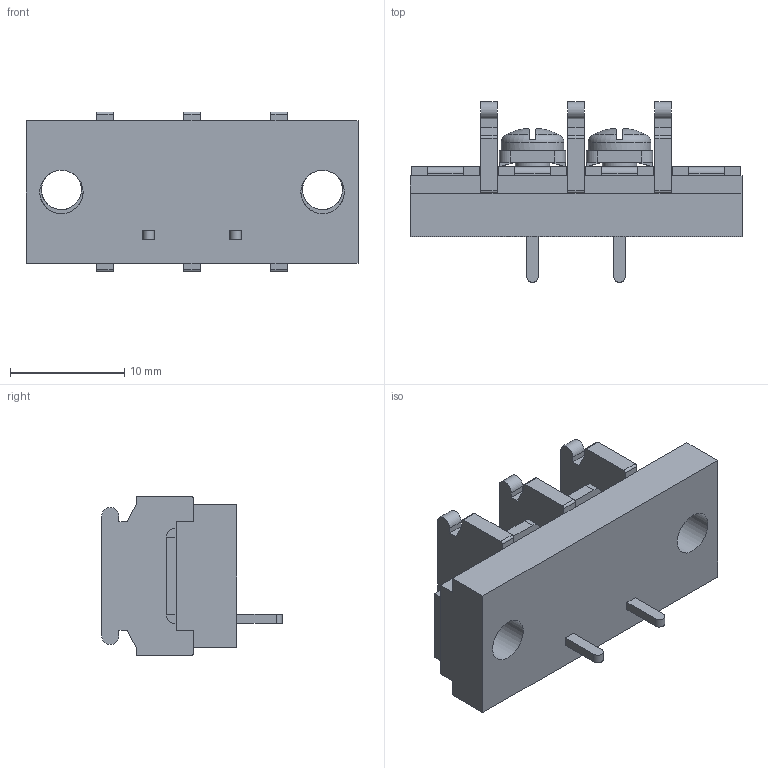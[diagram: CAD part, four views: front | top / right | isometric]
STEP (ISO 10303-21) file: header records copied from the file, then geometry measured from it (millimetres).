
FILE_DESCRIPTION(/* description */ ('Alibre Inc.'),/* implementation_level */ '2;1');
FILE_NAME(/* name */ 'export0',/* time_stamp */ '2015-10-23T19:34:39+09:00',/* author */ (''),/* organization */ (''),/* preprocessor_version */ 'ST-DEVELOPER v14',/* originating_system */ 'Alibre',/* authorisation */ '');
FILE_SCHEMA (('CONFIG_CONTROL_DESIGN'));
Length unit declared in the file: centimetre
Products named in the file (1): ID_1
Bounding box: 29.06 x 15.8 x 14 mm (x, y, z)
Volume: 2346.7 mm3; surface area: 2318.8 mm2
Topology: 1 solids, 17 shells, 680 faces, 1814 edges, 1198 vertices
Faces by surface type: plane 514, bspline 104, cylinder 46, cone 8, torus 4, sphere 4
Full cylindrical faces by diameter (mm): 3 x2, 3.5 x2, 3.8 x2, 5.5 x2
Entity records: 20263 total; most frequent: CARTESIAN_POINT 4715, ORIENTED_EDGE 3580, DIRECTION 2276, EDGE_CURVE 1790, VECTOR 1364, LINE 1364, VERTEX_POINT 1186, EDGE_LOOP 734
